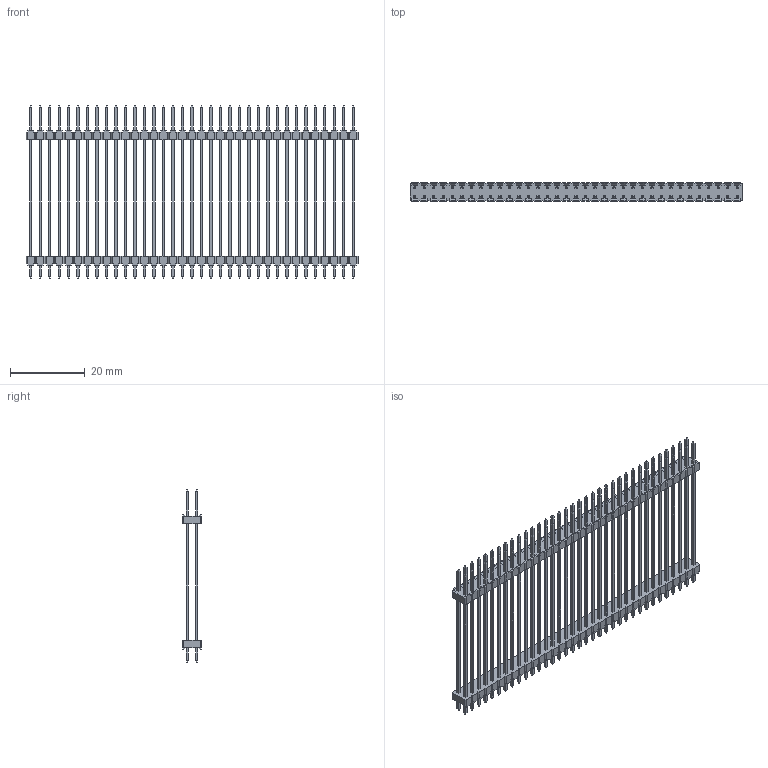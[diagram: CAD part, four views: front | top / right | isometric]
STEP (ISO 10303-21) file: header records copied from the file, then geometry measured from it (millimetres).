
FILE_DESCRIPTION(/* description */ (''),/* implementation_level */ '2;1');
FILE_NAME(/* name */ '961470-8041704-XX',/* time_stamp */ '2007-06-14T21:14:42+02:00',/* author */ (''),/* organization */ (''),/* preprocessor_version */ 'ST-DEVELOPER v9',/* originating_system */ 'UGS - NX 3.0',/* authorisation */ '');
FILE_SCHEMA (('AUTOMOTIVE_DESIGN { 1 0 10303 214 1 1 1 1 }'));
Products named in the file (1): 961470-8041704-XX
Bounding box: 88.9 x 5 x 46.1 mm (x, y, z)
Volume: 2978.4 mm3; surface area: 10117.6 mm2
Topology: 1 solids, 1 shells, 2672 faces, 7024 edges, 4496 vertices
Faces by surface type: plane 2672
Entity records: 80128 total; most frequent: CARTESIAN_POINT 14193, ORIENTED_EDGE 14048, DIRECTION 12370, EDGE_CURVE 7024, LINE 7024, VECTOR 7024, VERTEX_POINT 4496, EDGE_LOOP 2952
